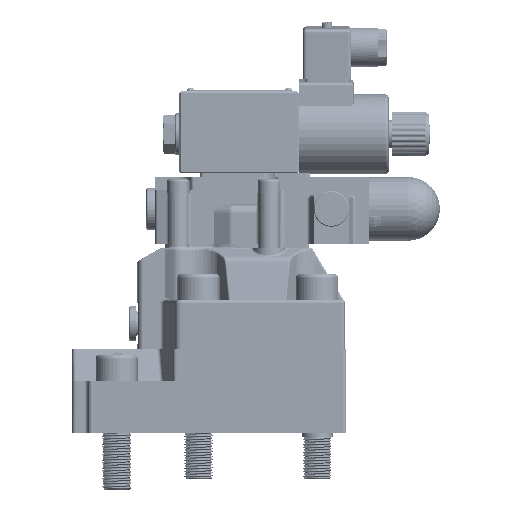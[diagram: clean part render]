
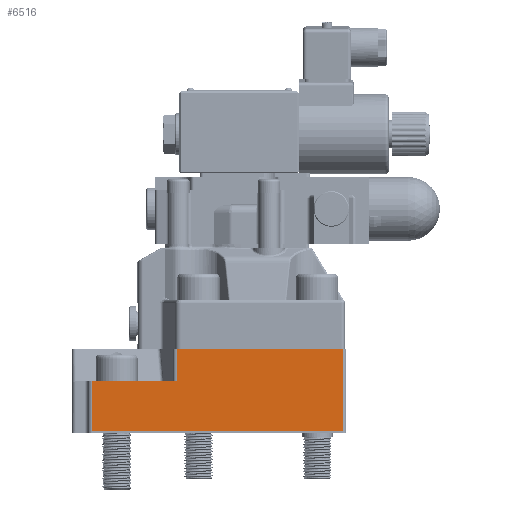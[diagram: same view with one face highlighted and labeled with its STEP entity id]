
A CAD part, front view. The second image highlights one B-rep face of the part: STEP entity #6516.
In plain terms, the highlighted planar face has unit normal (0, -1, 0).
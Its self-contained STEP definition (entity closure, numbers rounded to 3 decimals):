
#2432=FACE_OUTER_BOUND('',#16353,.T.);
#6516=ADVANCED_FACE('',(#2432),#9097,.F.);
#9097=PLANE('',#41379);
#10262=LINE('',#96646,#12177);
#10273=LINE('',#96698,#12188);
#10304=LINE('',#97017,#12219);
#10305=LINE('',#97020,#12220);
#10306=LINE('',#97021,#12221);
#10307=LINE('',#97022,#12222);
#12177=VECTOR('',#46002,1.);
#12188=VECTOR('',#46043,1.);
#12219=VECTOR('',#46148,1.);
#12220=VECTOR('',#46149,1.);
#12221=VECTOR('',#46150,1.);
#12222=VECTOR('',#46151,1.);
#16353=EDGE_LOOP('',(#20332,#20333,#20334,#20335,#20336,#20337));
#20332=ORIENTED_EDGE('',*,*,#34336,.T.);
#20333=ORIENTED_EDGE('',*,*,#34337,.T.);
#20334=ORIENTED_EDGE('',*,*,#34245,.T.);
#20335=ORIENTED_EDGE('',*,*,#34338,.F.);
#20336=ORIENTED_EDGE('',*,*,#34270,.F.);
#20337=ORIENTED_EDGE('',*,*,#34339,.T.);
#30492=VERTEX_POINT('',#96647);
#30493=VERTEX_POINT('',#96648);
#30517=VERTEX_POINT('',#96697);
#30518=VERTEX_POINT('',#96699);
#30573=VERTEX_POINT('',#97018);
#30574=VERTEX_POINT('',#97019);
#34245=EDGE_CURVE('',#30492,#30493,#10262,.T.);
#34270=EDGE_CURVE('',#30517,#30518,#10273,.T.);
#34336=EDGE_CURVE('',#30573,#30574,#10304,.T.);
#34337=EDGE_CURVE('',#30574,#30492,#10305,.T.);
#34338=EDGE_CURVE('',#30518,#30493,#10306,.T.);
#34339=EDGE_CURVE('',#30517,#30573,#10307,.T.);
#41379=AXIS2_PLACEMENT_3D('',#97023,#46152,#46153);
#46002=DIRECTION('',(1.,0.,0.));
#46043=DIRECTION('',(1.,0.,0.));
#46148=DIRECTION('',(-1.,0.,0.));
#46149=DIRECTION('',(0.,0.,-1.));
#46150=DIRECTION('',(0.,0.,-1.));
#46151=DIRECTION('',(0.,0.,-1.));
#46152=DIRECTION('',(0.,1.,0.));
#46153=DIRECTION('',(-1.,0.,0.));
#96646=CARTESIAN_POINT('',(333.554,149.539,-46.));
#96647=CARTESIAN_POINT('',(281.535,149.539,-46.));
#96648=CARTESIAN_POINT('',(422.535,149.539,-46.));
#96697=CARTESIAN_POINT('',(329.209,149.539,0.));
#96698=CARTESIAN_POINT('',(333.554,149.539,0.));
#96699=CARTESIAN_POINT('',(422.535,149.539,0.));
#97017=CARTESIAN_POINT('',(333.554,149.539,-18.));
#97018=CARTESIAN_POINT('',(329.209,149.539,-18.));
#97019=CARTESIAN_POINT('',(281.535,149.539,-18.));
#97020=CARTESIAN_POINT('',(281.535,149.539,-46.));
#97021=CARTESIAN_POINT('',(422.535,149.539,0.));
#97022=CARTESIAN_POINT('',(329.209,149.539,0.));
#97023=CARTESIAN_POINT('',(333.554,149.539,0.));
